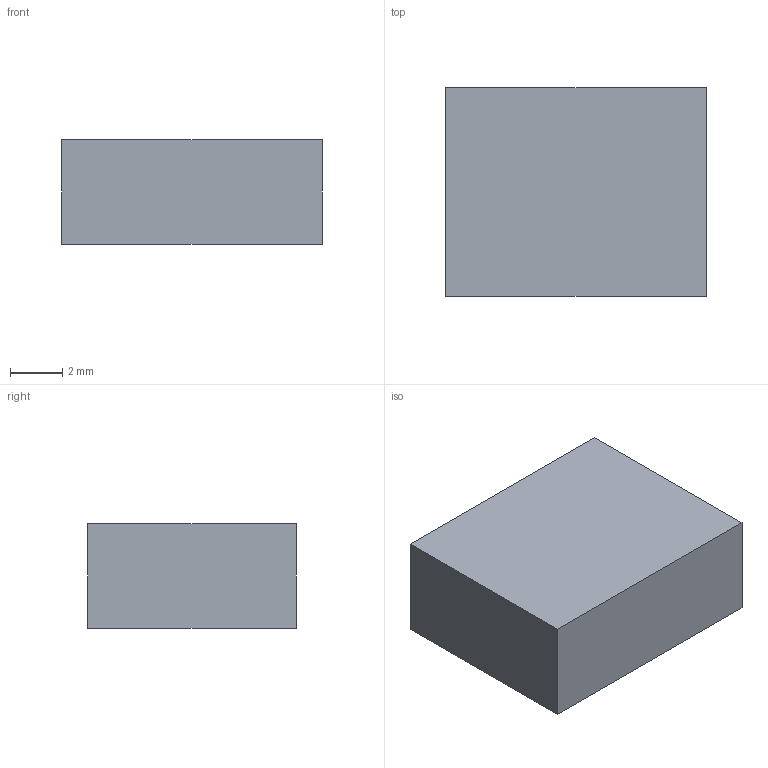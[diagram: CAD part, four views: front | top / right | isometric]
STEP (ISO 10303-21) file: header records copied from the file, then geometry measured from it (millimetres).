
FILE_DESCRIPTION(('Open CASCADE Model'),'2;1');
FILE_NAME('Open CASCADE Shape Model','2026-11-17T09:26:29',('Author'),( 'Open CASCADE'),'Open CASCADE STEP processor 8.0','Open CASCADE 8.0' ,'Unknown');
FILE_SCHEMA(('AUTOMOTIVE_DESIGN { 1 0 10303 214 1 1 1 1 }'));
Length unit declared in the file: millimetre
Products named in the file (1): Open CASCADE STEP translator 8.0 1
Bounding box: 10 x 8 x 4 mm (x, y, z)
Volume: 320 mm3; surface area: 304 mm2
Topology: 1 solids, 1 shells, 6 faces, 12 edges, 8 vertices
Faces by surface type: plane 6
Entity records: 322 total; most frequent: CARTESIAN_POINT 51, DIRECTION 50, LINE 36, VECTOR 36, ORIENTED_EDGE 24, PCURVE 24, DEFINITIONAL_REPRESENTATION 24, EDGE_CURVE 12
